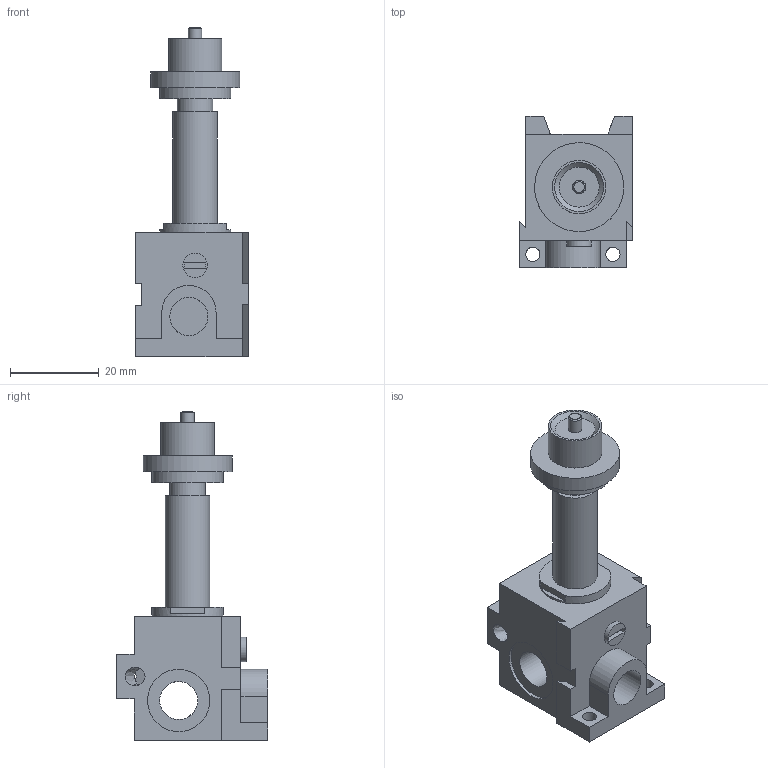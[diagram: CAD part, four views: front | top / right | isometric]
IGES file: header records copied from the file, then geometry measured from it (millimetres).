
Global section: file name: 305_M1-1; native system: Autodesk Inventor 2014; preprocessor: unknown; organization: Pneumax S.p.A.; date: 20161004.153115; units: millimetre
Bounding box: 25.4 x 34 x 74 mm (x, y, z)
Volume: 18585.3 mm3; surface area: 8207.3 mm2
Topology: 1 solids, 1 shells, 80 faces, 219 edges, 154 vertices
Faces by surface type: bspline 80
